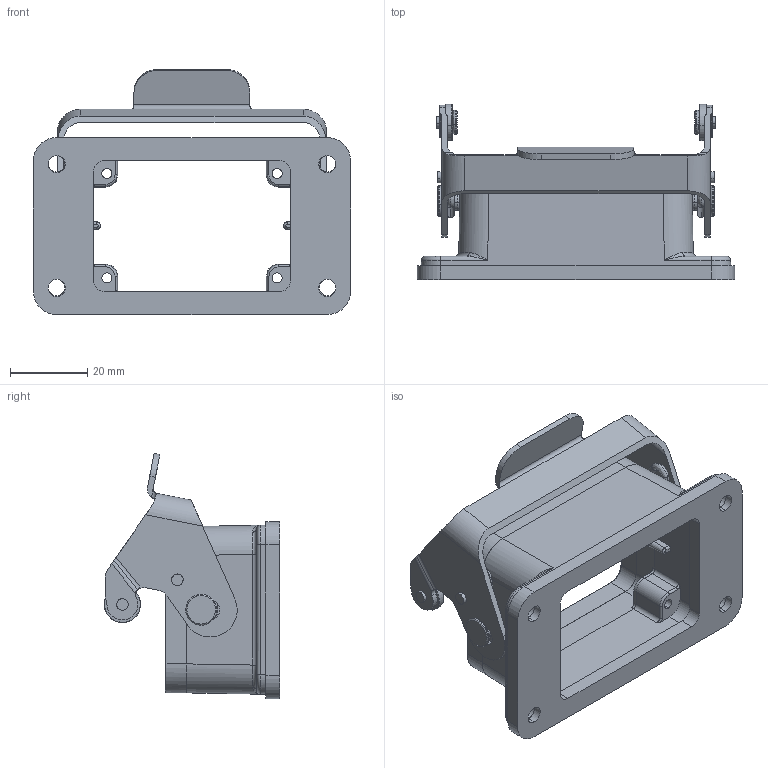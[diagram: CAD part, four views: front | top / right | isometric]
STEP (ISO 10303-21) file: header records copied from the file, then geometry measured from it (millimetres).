
FILE_DESCRIPTION (( 'STEP AP203' ), '1' );
FILE_NAME ('H6B-AG.STEP', '2020-11-21T02:24:17', ( '' ), ( '' ), 'SwSTEP 2.0', 'SolidWorks 2016', '' );
FILE_SCHEMA (( 'CONFIG_CONTROL_DESIGN' ));
Length unit declared in the file: millimetre
Products named in the file (10): H6B-AG; asm0002; 6bdankou; maoding; maoding1; kahuan; h6bmifengdian; m00607-1; prt0001; tanhuang
Assembly tree (15 placements, depth 3):
  H6B-AG
    m00607-1
    h6bmifengdian
    prt0001
    asm0002
      6bdankou
      kahuan  x2
      maoding1  x4
      tanhuang  x2
      maoding  x2
Bounding box: 82 x 45.35 x 63.39 mm (x, y, z)
Volume: 30160.5 mm3; surface area: 30341.3 mm2
Topology: 13 solids, 14 shells, 617 faces, 1486 edges, 912 vertices
Faces by surface type: cylinder 217, plane 171, bspline 170, cone 59
Entity records: 21413 total; most frequent: CARTESIAN_POINT 8990, ORIENTED_EDGE 2504, DIRECTION 2074, EDGE_CURVE 1268, VERTEX_POINT 789, AXIS2_PLACEMENT_3D 737, VECTOR 600, LINE 600
